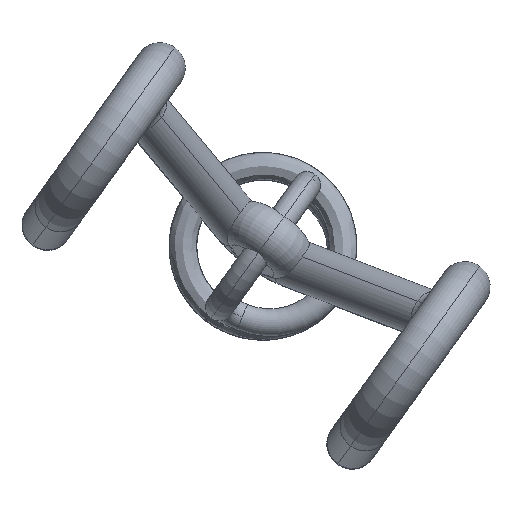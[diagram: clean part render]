
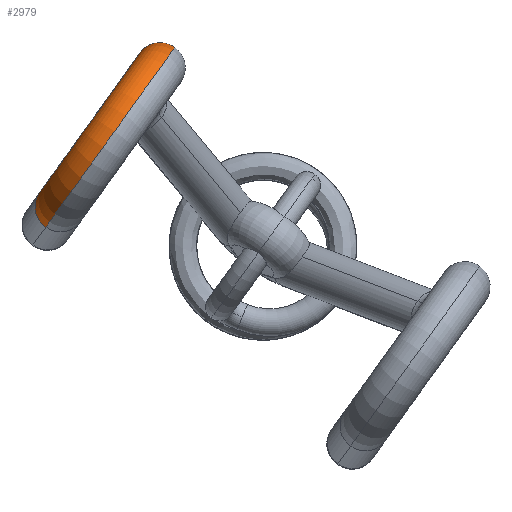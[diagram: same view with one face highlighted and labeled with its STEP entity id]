
A CAD part, front view. The second image highlights one B-rep face of the part: STEP entity #2979.
In plain terms, the highlighted toroidal (fillet/blend) face has major radius 7 mm and minor radius 2 mm.
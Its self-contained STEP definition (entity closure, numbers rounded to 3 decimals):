
#152 = AXIS2_PLACEMENT_3D ( 'NONE', #5392, #1657, #425 ) ;
#325 = VERTEX_POINT ( 'NONE', #4825 ) ;
#352 = TOROIDAL_SURFACE ( 'NONE', #430, 7., 2. ) ;
#425 = DIRECTION ( 'NONE',  ( -0.812, 0., 0.583 ) ) ;
#430 = AXIS2_PLACEMENT_3D ( 'NONE', #1511, #1553, #3240 ) ;
#592 = EDGE_CURVE ( 'NONE', #3456, #1636, #4275, .T. ) ;
#691 = AXIS2_PLACEMENT_3D ( 'NONE', #2157, #3444, #5065 ) ;
#804 = DIRECTION ( 'NONE',  ( -0.146, 0.968, -0.204 ) ) ;
#888 = ORIENTED_EDGE ( 'NONE', *, *, #5024, .T. ) ;
#947 = CARTESIAN_POINT ( 'NONE',  ( 84.045, -51.345, -810.882 ) ) ;
#965 = AXIS2_PLACEMENT_3D ( 'NONE', #3334, #804, #4140 ) ;
#979 = DIRECTION ( 'NONE',  ( -0.146, 0.968, -0.204 ) ) ;
#1005 = CARTESIAN_POINT ( 'NONE',  ( 82.916, -51.847, -812.455 ) ) ;
#1270 = EDGE_CURVE ( 'NONE', #1636, #5379, #2108, .T. ) ;
#1339 = DIRECTION ( 'NONE',  ( 0.812, 0., -0.583 ) ) ;
#1511 = CARTESIAN_POINT ( 'NONE',  ( 80.093, -53.102, -816.387 ) ) ;
#1553 = DIRECTION ( 'NONE',  ( -0.812, 0., 0.583 ) ) ;
#1598 = CARTESIAN_POINT ( 'NONE',  ( 77.271, -54.357, -820.319 ) ) ;
#1636 = VERTEX_POINT ( 'NONE', #4107 ) ;
#1657 = DIRECTION ( 'NONE',  ( -0.146, 0.968, -0.204 ) ) ;
#1706 = ORIENTED_EDGE ( 'NONE', *, *, #4403, .F. ) ;
#2108 = CIRCLE ( 'NONE', #2560, 2. ) ;
#2157 = CARTESIAN_POINT ( 'NONE',  ( 80.093, -53.102, -816.387 ) ) ;
#2206 = ORIENTED_EDGE ( 'NONE', *, *, #5211, .F. ) ;
#2381 = CARTESIAN_POINT ( 'NONE',  ( 80.093, -53.102, -816.387 ) ) ;
#2406 = FACE_OUTER_BOUND ( 'NONE', #5229, .T. ) ;
#2560 = AXIS2_PLACEMENT_3D ( 'NONE', #947, #979, #1339 ) ;
#2859 = CIRCLE ( 'NONE', #152, 2. ) ;
#2979 = ADVANCED_FACE ( 'NONE', ( #2406 ), #352, .T. ) ;
#3240 = DIRECTION ( 'NONE',  ( -0.146, 0.968, -0.204 ) ) ;
#3294 = DIRECTION ( 'NONE',  ( -0.812, 0., 0.583 ) ) ;
#3334 = CARTESIAN_POINT ( 'NONE',  ( 84.045, -51.345, -810.882 ) ) ;
#3421 = AXIS2_PLACEMENT_3D ( 'NONE', #2381, #3294, #4931 ) ;
#3444 = DIRECTION ( 'NONE',  ( -0.812, 0., 0.583 ) ) ;
#3456 = VERTEX_POINT ( 'NONE', #1005 ) ;
#3529 = VERTEX_POINT ( 'NONE', #1598 ) ;
#3841 = CIRCLE ( 'NONE', #3421, 9. ) ;
#3914 = ORIENTED_EDGE ( 'NONE', *, *, #1270, .F. ) ;
#4107 = CARTESIAN_POINT ( 'NONE',  ( 82.42, -51.345, -809.716 ) ) ;
#4140 = DIRECTION ( 'NONE',  ( 0.812, 0., -0.583 ) ) ;
#4242 = CARTESIAN_POINT ( 'NONE',  ( 85.174, -50.844, -809.309 ) ) ;
#4275 = CIRCLE ( 'NONE', #965, 2. ) ;
#4403 = EDGE_CURVE ( 'NONE', #325, #3529, #2859, .T. ) ;
#4825 = CARTESIAN_POINT ( 'NONE',  ( 75.013, -55.36, -823.464 ) ) ;
#4876 = ORIENTED_EDGE ( 'NONE', *, *, #592, .F. ) ;
#4931 = DIRECTION ( 'NONE',  ( 0.556, -0.299, 0.775 ) ) ;
#4962 = CIRCLE ( 'NONE', #691, 5. ) ;
#5024 = EDGE_CURVE ( 'NONE', #325, #5379, #3841, .T. ) ;
#5065 = DIRECTION ( 'NONE',  ( 0.556, -0.299, 0.775 ) ) ;
#5211 = EDGE_CURVE ( 'NONE', #3529, #3456, #4962, .T. ) ;
#5229 = EDGE_LOOP ( 'NONE', ( #1706, #888, #3914, #4876, #2206 ) ) ;
#5379 = VERTEX_POINT ( 'NONE', #4242 ) ;
#5392 = CARTESIAN_POINT ( 'NONE',  ( 76.142, -54.858, -821.891 ) ) ;
